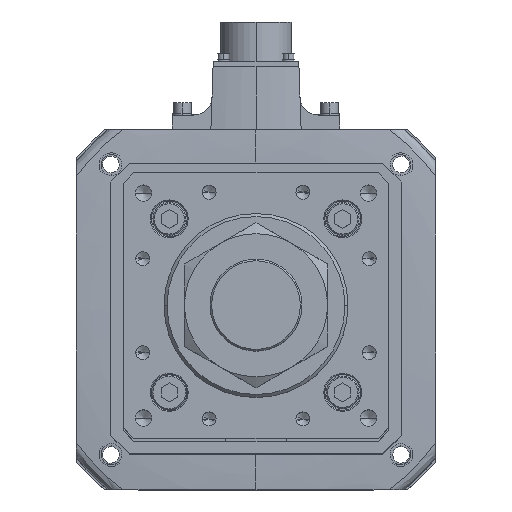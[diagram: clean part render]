
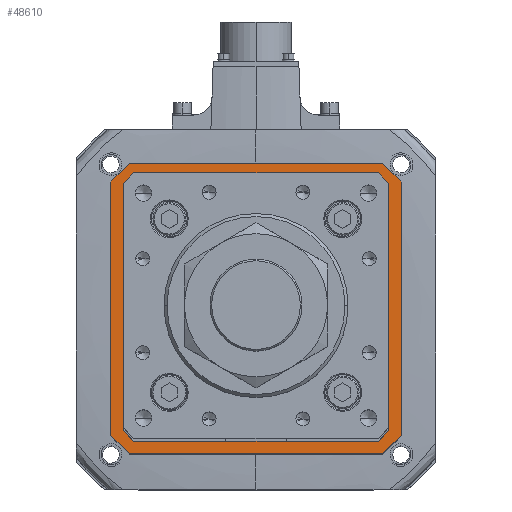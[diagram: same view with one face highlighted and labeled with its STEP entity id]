
A CAD part, top view. The second image highlights one B-rep face of the part: STEP entity #48610.
In plain terms, the highlighted planar face has unit normal (0, 0, 1).
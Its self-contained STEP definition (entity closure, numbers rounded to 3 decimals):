
#689 = LINE ( 'NONE', #22992, #48665 ) ;
#693 = VECTOR ( 'NONE', #13327, 1000. ) ;
#1218 = EDGE_CURVE ( 'NONE', #20791, #7820, #32689, .T. ) ;
#1494 = DIRECTION ( 'NONE',  ( 0., -1., 0. ) ) ;
#1505 = PLANE ( 'NONE',  #4509 ) ;
#1764 = VECTOR ( 'NONE', #22565, 1000. ) ;
#2033 = EDGE_CURVE ( 'NONE', #53549, #39829, #21352, .T. ) ;
#3174 = VERTEX_POINT ( 'NONE', #51487 ) ;
#3803 = LINE ( 'NONE', #13549, #35139 ) ;
#4049 = DIRECTION ( 'NONE',  ( 1., 0., 0. ) ) ;
#4509 = AXIS2_PLACEMENT_3D ( 'NONE', #22964, #52755, #27265 ) ;
#4569 = ORIENTED_EDGE ( 'NONE', *, *, #30448, .T. ) ;
#6789 = VERTEX_POINT ( 'NONE', #23740 ) ;
#7228 = CARTESIAN_POINT ( 'NONE',  ( 63., 58.793, -142. ) ) ;
#7329 = CARTESIAN_POINT ( 'NONE',  ( 62., -71., -142. ) ) ;
#7820 = VERTEX_POINT ( 'NONE', #30513 ) ;
#8269 = EDGE_CURVE ( 'NONE', #7820, #41939, #36922, .T. ) ;
#8280 = DIRECTION ( 'NONE',  ( -1., 0., 0. ) ) ;
#8424 = VECTOR ( 'NONE', #45011, 1000. ) ;
#8440 = CARTESIAN_POINT ( 'NONE',  ( -63., 58.793, -142. ) ) ;
#8669 = CARTESIAN_POINT ( 'NONE',  ( 60.896, 60.896, -142. ) ) ;
#8750 = VECTOR ( 'NONE', #8280, 1000. ) ;
#9658 = VERTEX_POINT ( 'NONE', #26469 ) ;
#9768 = DIRECTION ( 'NONE',  ( -1., 0., 0. ) ) ;
#10247 = ORIENTED_EDGE ( 'NONE', *, *, #2033, .F. ) ;
#10355 = VERTEX_POINT ( 'NONE', #48480 ) ;
#10483 = VECTOR ( 'NONE', #21077, 1000. ) ;
#10541 = ORIENTED_EDGE ( 'NONE', *, *, #46460, .F. ) ;
#10625 = LINE ( 'NONE', #52438, #33286 ) ;
#11335 = VERTEX_POINT ( 'NONE', #17232 ) ;
#11545 = DIRECTION ( 'NONE',  ( 0., -1., 0. ) ) ;
#11767 = LINE ( 'NONE', #49355, #19156 ) ;
#11927 = CARTESIAN_POINT ( 'NONE',  ( 71., -62., -142. ) ) ;
#12744 = CARTESIAN_POINT ( 'NONE',  ( -62., 71., -142. ) ) ;
#13327 = DIRECTION ( 'NONE',  ( 0.707, 0.707, 0. ) ) ;
#13549 = CARTESIAN_POINT ( 'NONE',  ( 71., 62., -142. ) ) ;
#13819 = LINE ( 'NONE', #16772, #10483 ) ;
#13824 = CARTESIAN_POINT ( 'NONE',  ( 58.793, 63., -142. ) ) ;
#14301 = VECTOR ( 'NONE', #34885, 1000. ) ;
#14385 = EDGE_CURVE ( 'NONE', #41939, #3174, #3803, .T. ) ;
#14882 = LINE ( 'NONE', #22788, #19562 ) ;
#15130 = LINE ( 'NONE', #53803, #8424 ) ;
#15808 = ORIENTED_EDGE ( 'NONE', *, *, #36908, .T. ) ;
#16286 = EDGE_LOOP ( 'NONE', ( #25195, #36529, #10541, #40034, #54015, #10247, #19106, #47974 ) ) ;
#16357 = VECTOR ( 'NONE', #1494, 1000. ) ;
#16662 = DIRECTION ( 'NONE',  ( -0.707, -0.707, 0. ) ) ;
#16772 = CARTESIAN_POINT ( 'NONE',  ( -63., 0., -142. ) ) ;
#17232 = CARTESIAN_POINT ( 'NONE',  ( -58.793, -63., -142. ) ) ;
#17471 = VERTEX_POINT ( 'NONE', #20253 ) ;
#18358 = VECTOR ( 'NONE', #4049, 1000. ) ;
#19106 = ORIENTED_EDGE ( 'NONE', *, *, #24827, .F. ) ;
#19156 = VECTOR ( 'NONE', #11545, 1000. ) ;
#19562 = VECTOR ( 'NONE', #52925, 1000. ) ;
#20253 = CARTESIAN_POINT ( 'NONE',  ( -63., -58.793, -142. ) ) ;
#20791 = VERTEX_POINT ( 'NONE', #49449 ) ;
#20994 = LINE ( 'NONE', #38963, #14301 ) ;
#21077 = DIRECTION ( 'NONE',  ( 0., 1., 0. ) ) ;
#21210 = EDGE_CURVE ( 'NONE', #10355, #11335, #10625, .T. ) ;
#21352 = LINE ( 'NONE', #28612, #53990 ) ;
#21376 = CARTESIAN_POINT ( 'NONE',  ( 62., -71., -142. ) ) ;
#21424 = CARTESIAN_POINT ( 'NONE',  ( 62., 71., -142. ) ) ;
#22565 = DIRECTION ( 'NONE',  ( -0.707, 0.707, 0. ) ) ;
#22788 = CARTESIAN_POINT ( 'NONE',  ( 60.896, -60.896, -142. ) ) ;
#22964 = CARTESIAN_POINT ( 'NONE',  ( 0., 0., -142. ) ) ;
#22992 = CARTESIAN_POINT ( 'NONE',  ( 0., 63., -142. ) ) ;
#23740 = CARTESIAN_POINT ( 'NONE',  ( -58.793, 63., -142. ) ) ;
#24827 = EDGE_CURVE ( 'NONE', #3174, #53549, #11767, .T. ) ;
#25195 = ORIENTED_EDGE ( 'NONE', *, *, #8269, .F. ) ;
#25702 = FACE_OUTER_BOUND ( 'NONE', #16286, .T. ) ;
#26469 = CARTESIAN_POINT ( 'NONE',  ( -62., -71., -142. ) ) ;
#26802 = VECTOR ( 'NONE', #51563, 1000. ) ;
#26965 = EDGE_CURVE ( 'NONE', #43477, #27344, #38275, .T. ) ;
#27265 = DIRECTION ( 'NONE',  ( 1., 0., 0. ) ) ;
#27344 = VERTEX_POINT ( 'NONE', #7228 ) ;
#27839 = LINE ( 'NONE', #48565, #1764 ) ;
#28612 = CARTESIAN_POINT ( 'NONE',  ( 71., -62., -142. ) ) ;
#29024 = VECTOR ( 'NONE', #38461, 1000. ) ;
#29499 = EDGE_CURVE ( 'NONE', #39829, #9658, #36717, .T. ) ;
#30176 = CARTESIAN_POINT ( 'NONE',  ( -62., -71., -142. ) ) ;
#30448 = EDGE_CURVE ( 'NONE', #6789, #43477, #689, .T. ) ;
#30513 = CARTESIAN_POINT ( 'NONE',  ( -62., 71., -142. ) ) ;
#31794 = VERTEX_POINT ( 'NONE', #8440 ) ;
#32237 = ORIENTED_EDGE ( 'NONE', *, *, #26965, .T. ) ;
#32689 = LINE ( 'NONE', #12744, #693 ) ;
#33286 = VECTOR ( 'NONE', #9768, 1000. ) ;
#34213 = ORIENTED_EDGE ( 'NONE', *, *, #44134, .T. ) ;
#34327 = EDGE_CURVE ( 'NONE', #17471, #31794, #13819, .T. ) ;
#34885 = DIRECTION ( 'NONE',  ( 0., 1., 0. ) ) ;
#35139 = VECTOR ( 'NONE', #43709, 1000. ) ;
#35169 = EDGE_CURVE ( 'NONE', #27344, #35440, #46377, .T. ) ;
#35440 = VERTEX_POINT ( 'NONE', #55340 ) ;
#36529 = ORIENTED_EDGE ( 'NONE', *, *, #1218, .F. ) ;
#36717 = LINE ( 'NONE', #21376, #8750 ) ;
#36908 = EDGE_CURVE ( 'NONE', #35440, #10355, #14882, .T. ) ;
#36922 = LINE ( 'NONE', #21424, #18358 ) ;
#38275 = LINE ( 'NONE', #8669, #29024 ) ;
#38281 = EDGE_LOOP ( 'NONE', ( #48914, #15808, #46420, #54525, #38978, #34213, #4569, #32237 ) ) ;
#38332 = EDGE_CURVE ( 'NONE', #9658, #44974, #49378, .T. ) ;
#38461 = DIRECTION ( 'NONE',  ( 0.707, -0.707, 0. ) ) ;
#38963 = CARTESIAN_POINT ( 'NONE',  ( -71., 62., -142. ) ) ;
#38978 = ORIENTED_EDGE ( 'NONE', *, *, #34327, .T. ) ;
#39665 = CARTESIAN_POINT ( 'NONE',  ( 63., 0., -142. ) ) ;
#39829 = VERTEX_POINT ( 'NONE', #7329 ) ;
#40034 = ORIENTED_EDGE ( 'NONE', *, *, #38332, .F. ) ;
#41939 = VERTEX_POINT ( 'NONE', #47687 ) ;
#43477 = VERTEX_POINT ( 'NONE', #13824 ) ;
#43709 = DIRECTION ( 'NONE',  ( 0.707, -0.707, 0. ) ) ;
#43975 = EDGE_CURVE ( 'NONE', #11335, #17471, #27839, .T. ) ;
#44134 = EDGE_CURVE ( 'NONE', #31794, #6789, #15130, .T. ) ;
#44974 = VERTEX_POINT ( 'NONE', #50364 ) ;
#45011 = DIRECTION ( 'NONE',  ( 0.707, 0.707, 0. ) ) ;
#46377 = LINE ( 'NONE', #39665, #16357 ) ;
#46420 = ORIENTED_EDGE ( 'NONE', *, *, #21210, .T. ) ;
#46460 = EDGE_CURVE ( 'NONE', #44974, #20791, #20994, .T. ) ;
#47687 = CARTESIAN_POINT ( 'NONE',  ( 62., 71., -142. ) ) ;
#47974 = ORIENTED_EDGE ( 'NONE', *, *, #14385, .F. ) ;
#48270 = DIRECTION ( 'NONE',  ( 1., 0., 0. ) ) ;
#48318 = FACE_BOUND ( 'NONE', #38281, .T. ) ;
#48480 = CARTESIAN_POINT ( 'NONE',  ( 58.793, -63., -142. ) ) ;
#48565 = CARTESIAN_POINT ( 'NONE',  ( -60.896, -60.896, -142. ) ) ;
#48610 = ADVANCED_FACE ( 'NONE', ( #48318, #25702 ), #1505, .T. ) ;
#48665 = VECTOR ( 'NONE', #48270, 1000. ) ;
#48914 = ORIENTED_EDGE ( 'NONE', *, *, #35169, .T. ) ;
#49355 = CARTESIAN_POINT ( 'NONE',  ( 71., 62., -142. ) ) ;
#49378 = LINE ( 'NONE', #30176, #26802 ) ;
#49449 = CARTESIAN_POINT ( 'NONE',  ( -71., 62., -142. ) ) ;
#50364 = CARTESIAN_POINT ( 'NONE',  ( -71., -62., -142. ) ) ;
#51487 = CARTESIAN_POINT ( 'NONE',  ( 71., 62., -142. ) ) ;
#51563 = DIRECTION ( 'NONE',  ( -0.707, 0.707, 0. ) ) ;
#52438 = CARTESIAN_POINT ( 'NONE',  ( 0., -63., -142. ) ) ;
#52755 = DIRECTION ( 'NONE',  ( 0., 0., 1. ) ) ;
#52925 = DIRECTION ( 'NONE',  ( -0.707, -0.707, 0. ) ) ;
#53549 = VERTEX_POINT ( 'NONE', #11927 ) ;
#53803 = CARTESIAN_POINT ( 'NONE',  ( -60.896, 60.896, -142. ) ) ;
#53990 = VECTOR ( 'NONE', #16662, 1000. ) ;
#54015 = ORIENTED_EDGE ( 'NONE', *, *, #29499, .F. ) ;
#54525 = ORIENTED_EDGE ( 'NONE', *, *, #43975, .T. ) ;
#55340 = CARTESIAN_POINT ( 'NONE',  ( 63., -58.793, -142. ) ) ;
